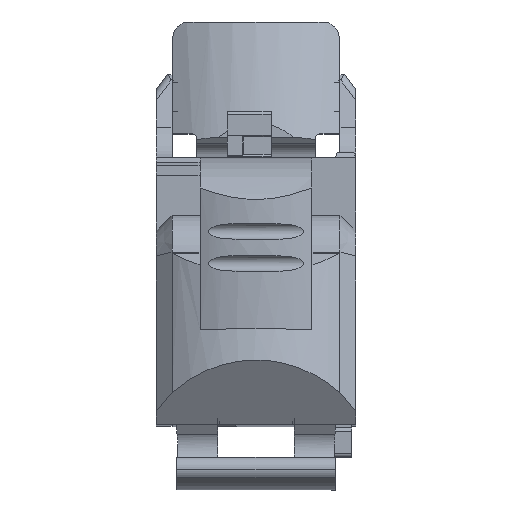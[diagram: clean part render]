
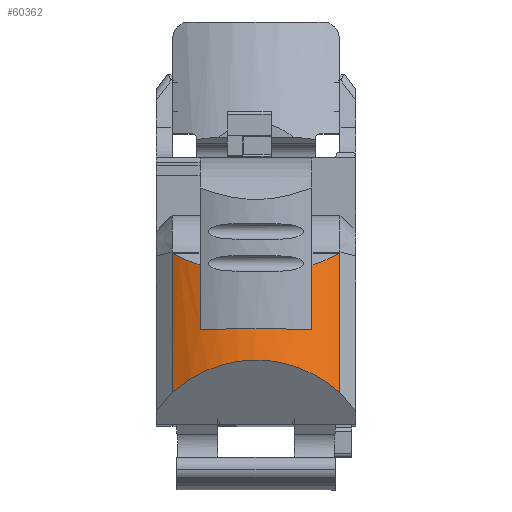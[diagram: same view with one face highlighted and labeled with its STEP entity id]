
A CAD part, top view. The second image highlights one B-rep face of the part: STEP entity #60362.
In plain terms, the highlighted cylindrical face has radius 9 mm (diameter 18 mm), a partial arc.
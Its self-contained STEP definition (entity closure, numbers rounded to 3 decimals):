
#13445=CARTESIAN_POINT('',(-5.25,-14.695,4.937));
#13446=CARTESIAN_POINT('',(-5.031,-14.507,5.055));
#13447=CARTESIAN_POINT('',(-4.594,-14.165,5.268));
#13448=CARTESIAN_POINT('',(-3.719,-13.602,5.62));
#13449=CARTESIAN_POINT('',(-2.625,-13.094,5.937));
#13450=CARTESIAN_POINT('',(-1.313,-12.744,6.156));
#13451=CARTESIAN_POINT('',(0.,-12.63,6.227));
#13452=CARTESIAN_POINT('',(1.313,-12.744,6.156));
#13453=CARTESIAN_POINT('',(2.625,-13.094,5.937));
#13454=CARTESIAN_POINT('',(3.719,-13.602,5.62));
#13455=CARTESIAN_POINT('',(4.594,-14.165,5.268));
#13456=CARTESIAN_POINT('',(5.031,-14.507,5.055));
#13457=CARTESIAN_POINT('',(5.25,-14.695,4.937));
#13483=DIRECTION('',(0.,-0.974,0.225));
#13484=VECTOR('',#13483,8.942);
#13485=CARTESIAN_POINT('',(-5.25,-5.982,
2.926));
#13486=LINE('',#13485,#13484);
#13589=DIRECTION('',(0.,-0.974,0.225));
#13590=VECTOR('',#13589,4.174);
#13591=CARTESIAN_POINT('',(3.5,-6.717,4.103));
#13592=LINE('',#13591,#13590);
#13610=CARTESIAN_POINT('',(3.5,-10.784,5.042));
#13611=CARTESIAN_POINT('',(3.377,-10.779,
5.093));
#13612=CARTESIAN_POINT('',(3.129,-10.767,
5.192));
#13613=CARTESIAN_POINT('',(2.752,-10.752,
5.322));
#13614=CARTESIAN_POINT('',(2.369,-10.739,
5.436));
#13615=CARTESIAN_POINT('',(1.981,-10.728,
5.532));
#13616=CARTESIAN_POINT('',(1.589,-10.719,
5.612));
#13617=CARTESIAN_POINT('',(1.195,-10.712,
5.673));
#13618=CARTESIAN_POINT('',(0.798,-10.707,
5.718));
#13619=CARTESIAN_POINT('',(0.399,-10.704,
5.744));
#13620=CARTESIAN_POINT('',(0.133,-10.704,
5.75));
#13621=CARTESIAN_POINT('',(0.,-10.704,
5.75));
#13626=CARTESIAN_POINT('',(0.,-10.704,
5.75));
#13627=CARTESIAN_POINT('',(-0.133,-10.704,
5.75));
#13628=CARTESIAN_POINT('',(-0.399,-10.704,
5.744));
#13629=CARTESIAN_POINT('',(-0.798,-10.707,
5.718));
#13630=CARTESIAN_POINT('',(-1.195,-10.712,
5.673));
#13631=CARTESIAN_POINT('',(-1.589,-10.719,
5.612));
#13632=CARTESIAN_POINT('',(-1.981,-10.728,
5.532));
#13633=CARTESIAN_POINT('',(-2.369,-10.739,
5.436));
#13634=CARTESIAN_POINT('',(-2.752,-10.752,
5.322));
#13635=CARTESIAN_POINT('',(-3.129,-10.767,
5.192));
#13636=CARTESIAN_POINT('',(-3.377,-10.779,
5.093));
#13637=CARTESIAN_POINT('',(-3.5,-10.784,5.042));
#13893=DIRECTION('',(0.,0.974,-0.225));
#13894=VECTOR('',#13893,4.174);
#13895=CARTESIAN_POINT('',(-3.5,-10.784,5.042));
#13896=LINE('',#13895,#13894);
#14065=CARTESIAN_POINT('',(-3.5,-6.717,4.103));
#14066=CARTESIAN_POINT('',(-3.822,-6.616,
3.939));
#14067=CARTESIAN_POINT('',(-4.434,-6.389,
3.577));
#14068=CARTESIAN_POINT('',(-4.987,-6.124,
3.152));
#14069=CARTESIAN_POINT('',(-5.25,-5.982,2.926));
#14081=CARTESIAN_POINT('',(5.25,-5.982,2.926));
#14082=CARTESIAN_POINT('',(4.987,-6.124,
3.152));
#14083=CARTESIAN_POINT('',(4.434,-6.389,
3.577));
#14084=CARTESIAN_POINT('',(3.822,-6.616,
3.939));
#14085=CARTESIAN_POINT('',(3.5,-6.717,4.103));
#14104=DIRECTION('',(0.,0.974,-0.225));
#14105=VECTOR('',#14104,8.942);
#14106=CARTESIAN_POINT('',(5.25,-14.695,4.937));
#14107=LINE('',#14106,#14105);
#41054=CARTESIAN_POINT('',(-5.25,-14.695,4.937));
#41055=VERTEX_POINT('',#41054);
#41056=VERTEX_POINT('',#13457);
#41059=CARTESIAN_POINT('',(-5.25,-5.982,
2.926));
#41060=VERTEX_POINT('',#41059);
#41072=CARTESIAN_POINT('',(3.5,-10.784,5.042));
#41074=VERTEX_POINT('',#41072);
#41083=CARTESIAN_POINT('',(3.5,-6.717,4.103));
#41084=VERTEX_POINT('',#41083);
#41085=CARTESIAN_POINT('',(-3.5,-10.784,5.042));
#41087=VERTEX_POINT('',#41085);
#41089=VERTEX_POINT('',#13626);
#41094=CARTESIAN_POINT('',(-3.5,-6.717,4.103));
#41095=VERTEX_POINT('',#41094);
#41106=VERTEX_POINT('',#14081);
#60343=CARTESIAN_POINT('',(0.,-18.344,-1.723));
#60344=DIRECTION('',(0.,-0.974,0.225));
#60345=DIRECTION('',(0.,-0.225,-0.974));
#60346=AXIS2_PLACEMENT_3D('',#60343,#60344,#60345);
#60347=CYLINDRICAL_SURFACE('',#60346,9.);
#60348=ORIENTED_EDGE('',*,*,#60063,.F.);
#60349=ORIENTED_EDGE('',*,*,#60090,.F.);
#60351=ORIENTED_EDGE('',*,*,#60350,.F.);
#60352=ORIENTED_EDGE('',*,*,#60234,.F.);
#60353=ORIENTED_EDGE('',*,*,#60198,.F.);
#60354=ORIENTED_EDGE('',*,*,#60196,.F.);
#60355=ORIENTED_EDGE('',*,*,#60174,.F.);
#60357=ORIENTED_EDGE('',*,*,#60356,.F.);
#60359=ORIENTED_EDGE('',*,*,#60358,.F.);
#60360=EDGE_LOOP('',(#60348,#60349,#60351,#60352,#60353,#60354,#60355,#60357,
#60359));
#60361=FACE_OUTER_BOUND('',#60360,.F.);
#13458=B_SPLINE_CURVE_WITH_KNOTS('',3,(#13445,#13446,#13447,#13448,#13449,
#13450,#13451,#13452,#13453,#13454,#13455,#13456,#13457),.UNSPECIFIED.,.F.,.F.,(
4,1,1,1,1,1,1,1,1,1,4),(0.,0.063,0.125,0.25,0.375,0.5,0.625,
0.75,0.875,0.938,1.),.UNSPECIFIED.);
#13622=B_SPLINE_CURVE_WITH_KNOTS('',3,(#13610,#13611,#13612,#13613,#13614,
#13615,#13616,#13617,#13618,#13619,#13620,#13621),.UNSPECIFIED.,.F.,.F.,(4,1,1,
1,1,1,1,1,1,4),(0.,0.111,0.222,0.333,
0.444,0.556,0.667,0.778,
0.889,1.),.UNSPECIFIED.);
#13638=B_SPLINE_CURVE_WITH_KNOTS('',3,(#13626,#13627,#13628,#13629,#13630,
#13631,#13632,#13633,#13634,#13635,#13636,#13637),.UNSPECIFIED.,.F.,.F.,(4,1,1,
1,1,1,1,1,1,4),(0.,0.111,0.222,0.333,
0.444,0.556,0.667,0.778,
0.889,1.),.UNSPECIFIED.);
#14070=B_SPLINE_CURVE_WITH_KNOTS('',3,(#14065,#14066,#14067,#14068,#14069),
.UNSPECIFIED.,.F.,.F.,(4,1,4),(0.,0.5,1.),.UNSPECIFIED.);
#14086=B_SPLINE_CURVE_WITH_KNOTS('',3,(#14081,#14082,#14083,#14084,#14085),
.UNSPECIFIED.,.F.,.F.,(4,1,4),(0.,0.5,1.),.UNSPECIFIED.);
#60063=EDGE_CURVE('',#41055,#41056,#13458,.T.);
#60090=EDGE_CURVE('',#41060,#41055,#13486,.T.);
#60174=EDGE_CURVE('',#41084,#41074,#13592,.T.);
#60196=EDGE_CURVE('',#41074,#41089,#13622,.T.);
#60198=EDGE_CURVE('',#41089,#41087,#13638,.T.);
#60234=EDGE_CURVE('',#41087,#41095,#13896,.T.);
#60350=EDGE_CURVE('',#41095,#41060,#14070,.T.);
#60356=EDGE_CURVE('',#41106,#41084,#14086,.T.);
#60358=EDGE_CURVE('',#41056,#41106,#14107,.T.);
#60362=ADVANCED_FACE('',(#60361),#60347,.T.);
